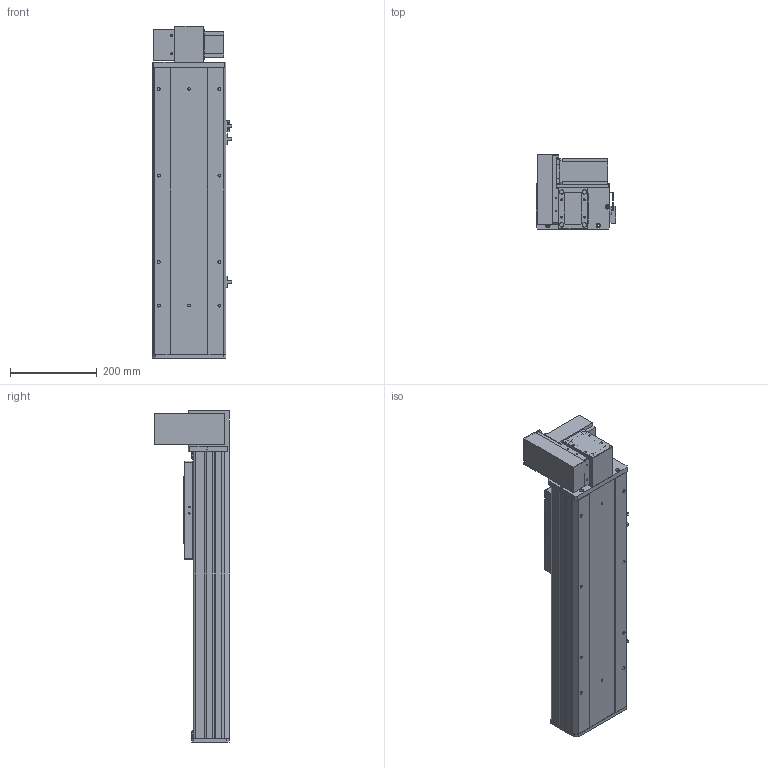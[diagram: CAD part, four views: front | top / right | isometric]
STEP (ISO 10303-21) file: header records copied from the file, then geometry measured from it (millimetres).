
FILE_DESCRIPTION (( 'STEP AP203' ), '1' );
FILE_NAME ('Y170CB-D105-S350-UL-P400W.STEP', '2020-02-20T02:08:01', ( '微软用户' ), ( '微软中国' ), 'SwSTEP 2.0', 'SolidWorks 2017', '' );
FILE_SCHEMA (( 'CONFIG_CONTROL_DESIGN' ));
Length unit declared in the file: millimetre
Products named in the file (18): 70B喘謫眊----; 70CB-耜裔啣-; Y1埴倛裔; 70C--詩湍揤踡え-; 17B-耜蚾蟀諉啣----; 70CB--耜裔; 00B-俋欶BM--163; 70C-雄赽釱-奻-; B-源倛裔啣; Y170CB-D105-S350-UL-P400W; 0C--雄赽釱俋欶-170; 0B-萇儂楊擘啣; 70CB-詩湍--; san松下电机400不带刹车----; Y100-135俋离換覜ん--; 70CB-掛极-; Y170CB-陔俋离換覜結え---; --70CB --喘謫眊楊擘啣-
Assembly tree (21 placements, depth 2):
  Y170CB-D105-S350-UL-P400W
    B-源倛裔啣
    0B-萇儂楊擘啣
    san松下电机400不带刹车----
    70CB-掛极-
    --70CB --喘謫眊楊擘啣-
    70CB-耜裔啣-  x2
    70C--詩湍揤踡え-  x2
    70CB--耜裔
    70C-雄赽釱-奻-
    0C--雄赽釱俋欶-170
    70CB-詩湍--
    Y100-135俋离換覜ん--  x3
    Y170CB-陔俋离換覜結え---
    70B喘謫眊----
    Y1埴倛裔
    17B-耜蚾蟀諉啣----
    00B-俋欶BM--163
Bounding box: 183.5 x 174 x 766 mm (x, y, z)
Volume: 3979971 mm3; surface area: 1412034 mm2
Topology: 21 solids, 21 shells, 983 faces, 2621 edges, 1738 vertices
Faces by surface type: cylinder 497, plane 462, cone 24
Entity records: 31160 total; most frequent: CARTESIAN_POINT 5676, DIRECTION 5066, ORIENTED_EDGE 4724, EDGE_CURVE 2362, AXIS2_PLACEMENT_3D 1848, VERTEX_POINT 1568, VECTOR 1370, LINE 1370
